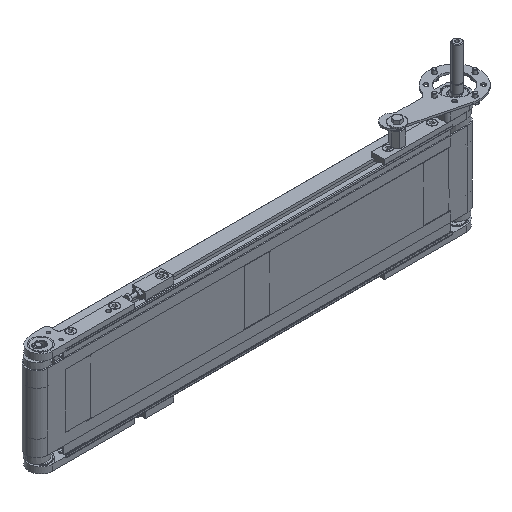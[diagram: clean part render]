
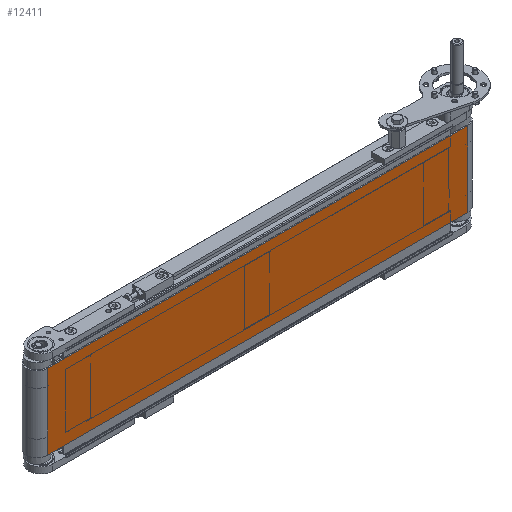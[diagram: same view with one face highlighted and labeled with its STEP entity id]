
A CAD part, isometric view. The second image highlights one B-rep face of the part: STEP entity #12411.
In plain terms, the highlighted planar face has unit normal (0, -1, 0).
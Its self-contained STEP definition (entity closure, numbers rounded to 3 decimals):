
#759 = DIRECTION ( 'NONE',  ( 0., 0., -1. ) ) ;
#1359 = AXIS2_PLACEMENT_3D ( 'NONE', #9898, #7303, #23469 ) ;
#2748 = LINE ( 'NONE', #28507, #24601 ) ;
#2805 = ORIENTED_EDGE ( 'NONE', *, *, #14803, .F. ) ;
#2882 = DIRECTION ( 'NONE',  ( 0., 0., -1. ) ) ;
#5013 = PLANE ( 'NONE',  #1359 ) ;
#6555 = VERTEX_POINT ( 'NONE', #22402 ) ;
#6767 = VECTOR ( 'NONE', #9060, 1000. ) ;
#7035 = ORIENTED_EDGE ( 'NONE', *, *, #13065, .T. ) ;
#7303 = DIRECTION ( 'NONE',  ( 0., 1., 0. ) ) ;
#9060 = DIRECTION ( 'NONE',  ( 1., 0., 0. ) ) ;
#9898 = CARTESIAN_POINT ( 'NONE',  ( -335., -17., 60. ) ) ;
#10248 = ORIENTED_EDGE ( 'NONE', *, *, #15813, .F. ) ;
#11195 = CARTESIAN_POINT ( 'NONE',  ( -335., -17., -60. ) ) ;
#11553 = VECTOR ( 'NONE', #2882, 1000. ) ;
#12411 = ADVANCED_FACE ( 'NONE', ( #28048 ), #5013, .F. ) ;
#12442 = VECTOR ( 'NONE', #759, 1000. ) ;
#13065 = EDGE_CURVE ( 'NONE', #28378, #20864, #22459, .T. ) ;
#13977 = CARTESIAN_POINT ( 'NONE',  ( -335., -17., 60. ) ) ;
#14129 = LINE ( 'NONE', #13977, #11553 ) ;
#14803 = EDGE_CURVE ( 'NONE', #6555, #25148, #2748, .T. ) ;
#15813 = EDGE_CURVE ( 'NONE', #25148, #20864, #19229, .T. ) ;
#16260 = CARTESIAN_POINT ( 'NONE',  ( 335., -17., -60. ) ) ;
#17045 = CARTESIAN_POINT ( 'NONE',  ( 335., -17., 60. ) ) ;
#17591 = EDGE_CURVE ( 'NONE', #6555, #28378, #14129, .T. ) ;
#18976 = CARTESIAN_POINT ( 'NONE',  ( 335., -17., 60. ) ) ;
#19229 = LINE ( 'NONE', #17045, #12442 ) ;
#20589 = EDGE_LOOP ( 'NONE', ( #7035, #10248, #2805, #21423 ) ) ;
#20864 = VERTEX_POINT ( 'NONE', #16260 ) ;
#21204 = DIRECTION ( 'NONE',  ( 1., 0., 0. ) ) ;
#21423 = ORIENTED_EDGE ( 'NONE', *, *, #17591, .T. ) ;
#22402 = CARTESIAN_POINT ( 'NONE',  ( -335., -17., 60. ) ) ;
#22459 = LINE ( 'NONE', #11195, #6767 ) ;
#23078 = CARTESIAN_POINT ( 'NONE',  ( -335., -17., -60. ) ) ;
#23469 = DIRECTION ( 'NONE',  ( 0., 0., 1. ) ) ;
#24601 = VECTOR ( 'NONE', #21204, 1000. ) ;
#25148 = VERTEX_POINT ( 'NONE', #18976 ) ;
#28048 = FACE_OUTER_BOUND ( 'NONE', #20589, .T. ) ;
#28378 = VERTEX_POINT ( 'NONE', #23078 ) ;
#28507 = CARTESIAN_POINT ( 'NONE',  ( -335., -17., 60. ) ) ;
